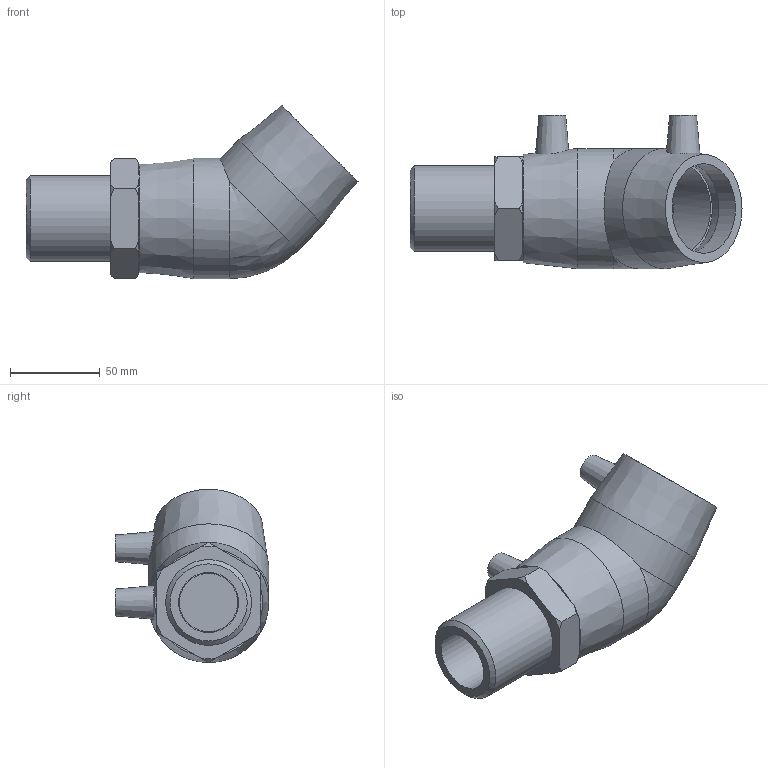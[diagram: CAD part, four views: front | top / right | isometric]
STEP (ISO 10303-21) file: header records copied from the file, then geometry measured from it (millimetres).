
FILE_DESCRIPTION(/* description */ ('PLASSON 45° ELBOW TRANSITION MALE 50 x 1 1⁄2"'),/* implementation_level */ '2;1');
FILE_NAME(/* name */ 'C:\Dropbox\KIMPROJECTS-Inventor\99-16-3568-Processing\ElectroFusion Fittings\02.02.20\492604\492604050015N.ipt.stp',/* time_stamp */ '2020-02-02T12:20:05+02:00',/* author */ ('KIM'),/* organization */ (''),/* preprocessor_version */ 'ST-DEVELOPER v15.6',/* originating_system */ 'Autodesk Inventor 2015',/* authorisation */ '');
FILE_SCHEMA (('AUTOMOTIVE_DESIGN { 1 0 10303 214 3 1 1 }'));
Length unit declared in the file: millimetre
Products named in the file (1): 492604050015N
Bounding box: 185 x 85.5 x 96.52 mm (x, y, z)
Volume: 326552.2 mm3; surface area: 67619.4 mm2
Topology: 1 solids, 2 shells, 61 faces, 137 edges, 90 vertices
Faces by surface type: plane 25, cone 19, cylinder 16, bspline 1
Full cylindrical faces by diameter (mm): 4 x2, 10 x2, 32.5 x2, 33.462 x1, 35 x1, 47.803 x1, 50 x4, 67 x2
Entity records: 1535 total; most frequent: CARTESIAN_POINT 369, DIRECTION 245, ORIENTED_EDGE 194, AXIS2_PLACEMENT_3D 113, EDGE_LOOP 99, EDGE_CURVE 97, VERTEX_POINT 76, FACE_OUTER_BOUND 61
